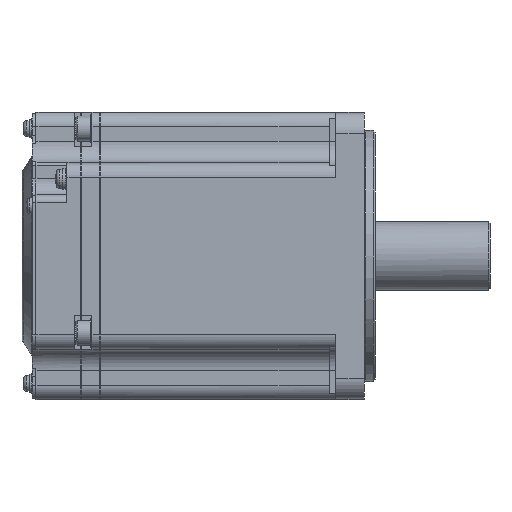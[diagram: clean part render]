
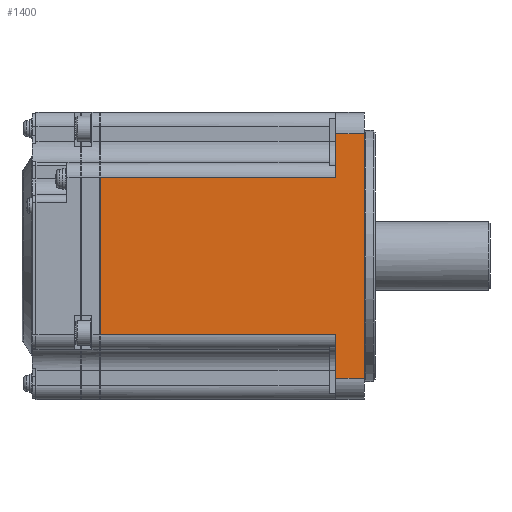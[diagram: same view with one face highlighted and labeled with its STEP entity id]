
A CAD part, front view. The second image highlights one B-rep face of the part: STEP entity #1400.
In plain terms, the highlighted planar face has unit normal (0, -1, 0).
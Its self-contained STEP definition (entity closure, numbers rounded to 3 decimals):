
#1400 = ADVANCED_FACE( '', ( #3339 ), #3340, .T. );
#3339 = FACE_OUTER_BOUND( '', #5971, .T. );
#3340 = PLANE( '', #5972 );
#5971 = EDGE_LOOP( '', ( #9685, #9686, #9687, #9688, #9689, #9690, #9691, #9692 ) );
#5972 = AXIS2_PLACEMENT_3D( '', #9693, #9694, #9695 );
#9685 = ORIENTED_EDGE( '', *, *, #15922, .F. );
#9686 = ORIENTED_EDGE( '', *, *, #15923, .T. );
#9687 = ORIENTED_EDGE( '', *, *, #15924, .F. );
#9688 = ORIENTED_EDGE( '', *, *, #15925, .F. );
#9689 = ORIENTED_EDGE( '', *, *, #14903, .F. );
#9690 = ORIENTED_EDGE( '', *, *, #15926, .T. );
#9691 = ORIENTED_EDGE( '', *, *, #15927, .F. );
#9692 = ORIENTED_EDGE( '', *, *, #15576, .F. );
#9693 = CARTESIAN_POINT( '', ( -78.9, -40., 34. ) );
#9694 = DIRECTION( '', ( 0., -1., 0. ) );
#9695 = DIRECTION( '', ( 0., 0., -1. ) );
#14903 = EDGE_CURVE( '', #17632, #17619, #17634, .T. );
#15576 = EDGE_CURVE( '', #18802, #18805, #18806, .T. );
#15922 = EDGE_CURVE( '', #19361, #18802, #19362, .T. );
#15923 = EDGE_CURVE( '', #19361, #19363, #19364, .T. );
#15924 = EDGE_CURVE( '', #19365, #19363, #19366, .T. );
#15925 = EDGE_CURVE( '', #17619, #19365, #19367, .T. );
#15926 = EDGE_CURVE( '', #17632, #19368, #19369, .T. );
#15927 = EDGE_CURVE( '', #18805, #19368, #19370, .T. );
#17619 = VERTEX_POINT( '', #21637 );
#17632 = VERTEX_POINT( '', #21653 );
#17634 = LINE( '', #21655, #21656 );
#18802 = VERTEX_POINT( '', #23227 );
#18805 = VERTEX_POINT( '', #23230 );
#18806 = LINE( '', #23231, #23232 );
#19361 = VERTEX_POINT( '', #23980 );
#19362 = LINE( '', #23981, #23982 );
#19363 = VERTEX_POINT( '', #23983 );
#19364 = LINE( '', #23984, #23985 );
#19365 = VERTEX_POINT( '', #23986 );
#19366 = LINE( '', #23987, #23988 );
#19367 = LINE( '', #23989, #23990 );
#19368 = VERTEX_POINT( '', #23991 );
#19369 = LINE( '', #23992, #23993 );
#19370 = LINE( '', #23994, #23995 );
#21637 = CARTESIAN_POINT( '', ( -8., -40., -22. ) );
#21653 = CARTESIAN_POINT( '', ( -8., -40., -34. ) );
#21655 = CARTESIAN_POINT( '', ( -8., -40., 34. ) );
#21656 = VECTOR( '', #27126, 1000. );
#23227 = CARTESIAN_POINT( '', ( -8., -40., 34. ) );
#23230 = CARTESIAN_POINT( '', ( 0., -40., 34. ) );
#23231 = CARTESIAN_POINT( '', ( -78.9, -40., 34. ) );
#23232 = VECTOR( '', #27977, 1000. );
#23980 = CARTESIAN_POINT( '', ( -8., -40., 22. ) );
#23981 = CARTESIAN_POINT( '', ( -8., -40., 34. ) );
#23982 = VECTOR( '', #28382, 1000. );
#23983 = CARTESIAN_POINT( '', ( -73.6, -40., 22. ) );
#23984 = CARTESIAN_POINT( '', ( -8., -40., 22. ) );
#23985 = VECTOR( '', #28383, 1000. );
#23986 = CARTESIAN_POINT( '', ( -73.6, -40., -22. ) );
#23987 = CARTESIAN_POINT( '', ( -73.6, -40., 34. ) );
#23988 = VECTOR( '', #28384, 1000. );
#23989 = CARTESIAN_POINT( '', ( -8., -40., -22. ) );
#23990 = VECTOR( '', #28385, 1000. );
#23991 = CARTESIAN_POINT( '', ( 0., -40., -34. ) );
#23992 = CARTESIAN_POINT( '', ( -78.9, -40., -34. ) );
#23993 = VECTOR( '', #28386, 1000. );
#23994 = CARTESIAN_POINT( '', ( 0., -40., 34. ) );
#23995 = VECTOR( '', #28387, 1000. );
#27126 = DIRECTION( '', ( 0., 0., 1. ) );
#27977 = DIRECTION( '', ( 1., 0., 0. ) );
#28382 = DIRECTION( '', ( 0., 0., 1. ) );
#28383 = DIRECTION( '', ( -1., 0., 0. ) );
#28384 = DIRECTION( '', ( 0., 0., 1. ) );
#28385 = DIRECTION( '', ( -1., 0., 0. ) );
#28386 = DIRECTION( '', ( 1., 0., 0. ) );
#28387 = DIRECTION( '', ( 0., 0., -1. ) );
